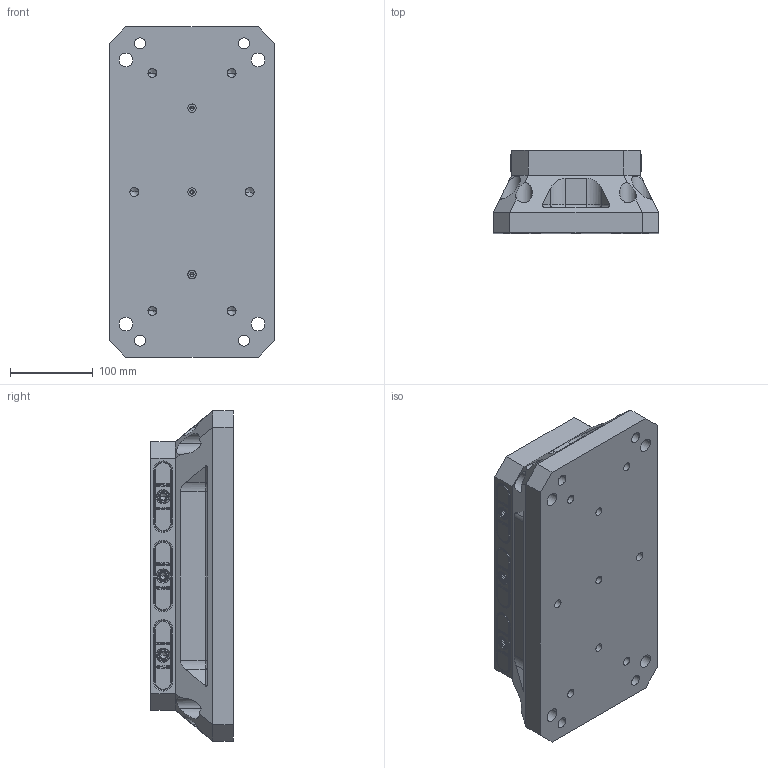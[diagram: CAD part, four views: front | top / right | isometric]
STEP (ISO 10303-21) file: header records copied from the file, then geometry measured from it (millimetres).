
FILE_DESCRIPTION (( 'STEP AP214' ), '1' );
FILE_NAME ('RL96A-4816.STEP', '2019-05-09T15:21:10', ( '' ), ( '' ), 'SwSTEP 2.0', 'SolidWorks 2018', '' );
FILE_SCHEMA (( 'AUTOMOTIVE_DESIGN' ));
Length unit declared in the file: inch
Products named in the file (9): RockLock Double Position; RL96-6_95258A216; RL96-5; RL96-4; RL96-3; RL96-2R; RL96-2L; RL96A-4816-1; RL96A-4816
Assembly tree (31 placements, depth 3):
  RL96A-4816
    RL96A-4816-1
    RockLock Double Position
      RL96-2L  x3
      RL96-2R  x3
      RL96-3  x3
      RL96-4  x8
      RL96-5  x6
      RL96-6_95258A216  x6
Bounding box: 200 x 100 x 400 mm (x, y, z)
Volume: 5828955 mm3; surface area: 439604.8 mm2
Topology: 30 solids, 30 shells, 3242 faces, 8213 edges, 5275 vertices
Faces by surface type: plane 1724, cylinder 618, bspline 542, cone 250, torus 108
Entity records: 73584 total; most frequent: CARTESIAN_POINT 30739, ORIENTED_EDGE 9226, DIRECTION 7514, EDGE_CURVE 4613, VERTEX_POINT 2997, VECTOR 2882, LINE 2882, AXIS2_PLACEMENT_3D 2316
